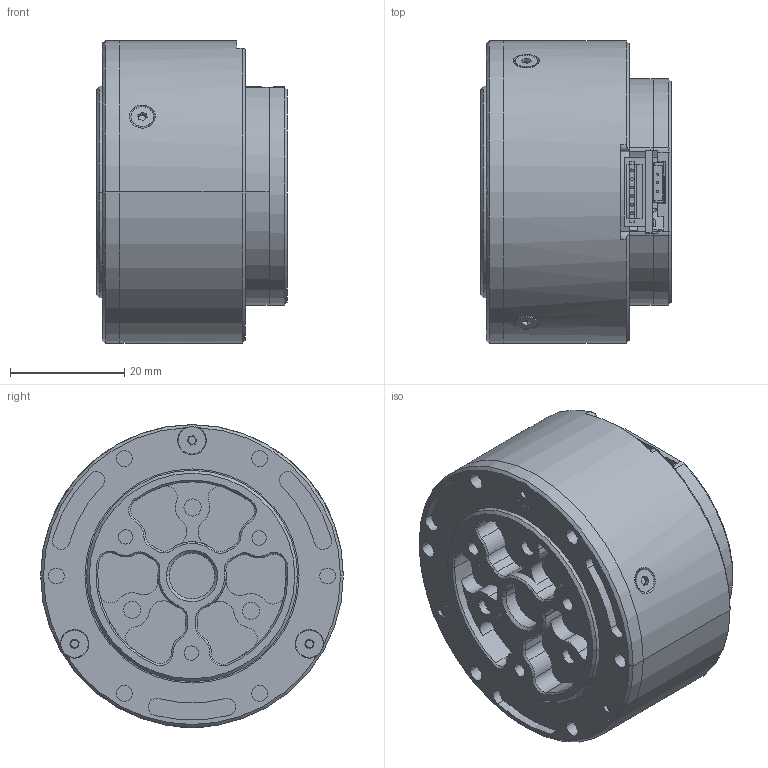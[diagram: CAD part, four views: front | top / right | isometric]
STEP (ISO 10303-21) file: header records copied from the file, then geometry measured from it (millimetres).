
FILE_DESCRIPTION (( 'STEP AP214' ), '1' );
FILE_NAME ('MG4005-i10-3D.STEP', '2024-10-15T09:35:04', ( 'zhang_jianheng@outlook.com' ), ( 'HP' ), 'SwSTEP 2.0', 'SolidWorks 2020', '' );
FILE_SCHEMA (( 'AUTOMOTIVE_DESIGN' ));
Length unit declared in the file: millimetre
Products named in the file (1): MG4005-i10-3D
Bounding box: 33.4 x 53 x 53 mm (x, y, z)
Surface area: 24357.3 mm2 (no closed solid volume)
Topology: 0 solids, 115 shells, 1634 faces, 3952 edges, 2581 vertices
Faces by surface type: plane 809, cylinder 491, bspline 220, cone 114
Entity records: 72704 total; most frequent: CARTESIAN_POINT 16470, ORIENTED_EDGE 7828, DIRECTION 7352, EDGE_CURVE 3938, VERTEX_POINT 2581, AXIS2_PLACEMENT_3D 2541, VECTOR 2270, LINE 2270
